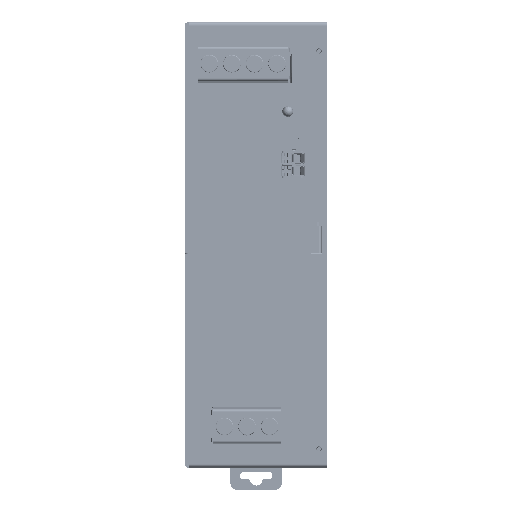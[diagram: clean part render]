
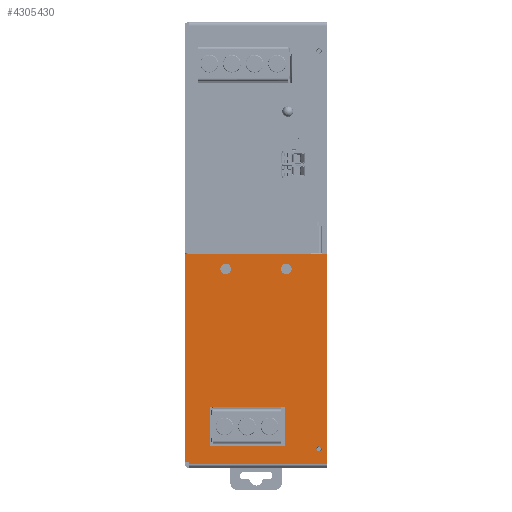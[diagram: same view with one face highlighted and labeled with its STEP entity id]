
A CAD part, left-side view. The second image highlights one B-rep face of the part: STEP entity #4305430.
In plain terms, the highlighted planar face has unit normal (-1, 0, 0).
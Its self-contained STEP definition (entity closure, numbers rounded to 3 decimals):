
#4303350=CARTESIAN_POINT('',(-27.647,70.486,
-48.9));
#4303360=VERTEX_POINT('',#4303350);
#4303390=CARTESIAN_POINT('',(-27.647,31.686,
-48.9));
#4303400=DIRECTION('',(0.,1.,0.));
#4303410=VECTOR('',#4303400,1.);
#4303420=LINE('',#4303390,#4303410);
#4303430=CARTESIAN_POINT('',(-27.647,31.686,
-48.9));
#4303440=VERTEX_POINT('',#4303430);
#4303450=EDGE_CURVE('',#4303440,#4303360,#4303420,.T.);
#4303760=CARTESIAN_POINT('',(-27.647,70.486,
-48.4));
#4303770=VERTEX_POINT('',#4303760);
#4303800=CARTESIAN_POINT('',(-27.647,70.486,
-48.9));
#4303810=DIRECTION('',(0.,0.,1.));
#4303820=VECTOR('',#4303810,1.);
#4303830=LINE('',#4303800,#4303820);
#4303840=EDGE_CURVE('',#4303360,#4303770,#4303830,.T.);
#4304100=CARTESIAN_POINT('',(-27.647,71.186,
-48.4));
#4304110=VERTEX_POINT('',#4304100);
#4304140=CARTESIAN_POINT('',(-27.647,70.486,
-48.4));
#4304150=DIRECTION('',(0.,1.,0.));
#4304160=VECTOR('',#4304150,1.);
#4304170=LINE('',#4304140,#4304160);
#4304180=EDGE_CURVE('',#4303770,#4304110,#4304170,.T.);
#4304230=CARTESIAN_POINT('',(-27.647,39.986,
86.979));
#4304240=DIRECTION('',(-1.,0.,0.));
#4304250=DIRECTION('',(0.,0.,1.));
#4304260=AXIS2_PLACEMENT_3D('',#4304230,#4304240,#4304250);
#4304270=PLANE('',#4304260);
#4304280=CARTESIAN_POINT('',(-27.647,43.646,
-32.148));
#4304290=DIRECTION('',(0.,0.,-1.));
#4304300=VECTOR('',#4304290,1.);
#4304310=LINE('',#4304280,#4304300);
#4304320=CARTESIAN_POINT('',(-27.647,43.646,
-32.748));
#4304330=VERTEX_POINT('',#4304320);
#4304340=CARTESIAN_POINT('',(-27.647,43.646,
-43.85));
#4304350=VERTEX_POINT('',#4304340);
#4304360=EDGE_CURVE('',#4304330,#4304350,#4304310,.T.);
#4304370=ORIENTED_EDGE('',*,*,#4304360,.T.);
#4304380=CARTESIAN_POINT('',(-27.647,64.671,
-32.748));
#4304390=DIRECTION('',(0.,-1.,0.));
#4304400=VECTOR('',#4304390,1.);
#4304410=LINE('',#4304380,#4304400);
#4304420=CARTESIAN_POINT('',(-27.647,64.696,
-32.748));
#4304430=VERTEX_POINT('',#4304420);
#4304440=EDGE_CURVE('',#4304430,#4304330,#4304410,.T.);
#4304450=ORIENTED_EDGE('',*,*,#4304440,.T.);
#4304460=CARTESIAN_POINT('',(-27.647,64.696,
-42.45));
#4304470=DIRECTION('',(0.,0.,1.));
#4304480=VECTOR('',#4304470,1.);
#4304490=LINE('',#4304460,#4304480);
#4304500=CARTESIAN_POINT('',(-27.647,64.696,
-43.85));
#4304510=VERTEX_POINT('',#4304500);
#4304520=EDGE_CURVE('',#4304510,#4304430,#4304490,.T.);
#4304530=ORIENTED_EDGE('',*,*,#4304520,.T.);
#4304540=CARTESIAN_POINT('',(-27.647,64.671,
-43.85));
#4304550=DIRECTION('',(0.,-1.,0.));
#4304560=VECTOR('',#4304550,1.);
#4304570=LINE('',#4304540,#4304560);
#4304580=EDGE_CURVE('',#4304510,#4304350,#4304570,.T.);
#4304590=ORIENTED_EDGE('',*,*,#4304580,.F.);
#4304600=EDGE_LOOP('',(#4304590,#4304530,#4304450,#4304370));
#4304610=FACE_BOUND('',#4304600,.T.);
#4304620=CARTESIAN_POINT('',(-27.647,43.186,
5.949));
#4304630=DIRECTION('',(1.,0.,0.));
#4304640=DIRECTION('',(0.,0.,-1.));
#4304650=AXIS2_PLACEMENT_3D('',#4304620,#4304630,#4304640);
#4304660=CIRCLE('',#4304650,1.5);
#4304670=CARTESIAN_POINT('',(-27.647,43.186,
4.449));
#4304680=VERTEX_POINT('',#4304670);
#4304690=CARTESIAN_POINT('',(-27.647,43.186,
7.449));
#4304700=VERTEX_POINT('',#4304690);
#4304710=EDGE_CURVE('',#4304680,#4304700,#4304660,.T.);
#4304720=ORIENTED_EDGE('',*,*,#4304710,.T.);
#4304730=EDGE_CURVE('',#4304700,#4304680,#4304660,.T.);
#4304740=ORIENTED_EDGE('',*,*,#4304730,.T.);
#4304750=EDGE_LOOP('',(#4304740,#4304720));
#4304760=FACE_BOUND('',#4304750,.T.);
#4304770=CARTESIAN_POINT('',(-27.647,60.186,
5.949));
#4304780=DIRECTION('',(1.,0.,0.));
#4304790=DIRECTION('',(0.,0.,1.));
#4304800=AXIS2_PLACEMENT_3D('',#4304770,#4304780,#4304790);
#4304810=CIRCLE('',#4304800,1.5);
#4304820=CARTESIAN_POINT('',(-27.647,60.186,
7.449));
#4304830=VERTEX_POINT('',#4304820);
#4304840=CARTESIAN_POINT('',(-27.647,60.186,
4.449));
#4304850=VERTEX_POINT('',#4304840);
#4304860=EDGE_CURVE('',#4304830,#4304850,#4304810,.T.);
#4304870=ORIENTED_EDGE('',*,*,#4304860,.T.);
#4304880=EDGE_CURVE('',#4304850,#4304830,#4304810,.T.);
#4304890=ORIENTED_EDGE('',*,*,#4304880,.T.);
#4304900=EDGE_LOOP('',(#4304890,#4304870));
#4304910=FACE_BOUND('',#4304900,.T.);
#4304920=CARTESIAN_POINT('',(-27.647,33.986,
-44.574));
#4304930=DIRECTION('',(1.,0.,0.));
#4304940=DIRECTION('',(0.,-1.,0.));
#4304950=AXIS2_PLACEMENT_3D('',#4304920,#4304930,#4304940);
#4304960=CIRCLE('',#4304950,0.763);
#4304970=CARTESIAN_POINT('',(-27.647,33.223,
-44.574));
#4304980=VERTEX_POINT('',#4304970);
#4304990=CARTESIAN_POINT('',(-27.647,34.749,
-44.574));
#4305000=VERTEX_POINT('',#4304990);
#4305010=EDGE_CURVE('',#4304980,#4305000,#4304960,.T.);
#4305020=ORIENTED_EDGE('',*,*,#4305010,.T.);
#4305030=EDGE_CURVE('',#4305000,#4304980,#4304960,.T.);
#4305040=ORIENTED_EDGE('',*,*,#4305030,.T.);
#4305050=EDGE_LOOP('',(#4305040,#4305020));
#4305060=FACE_BOUND('',#4305050,.T.);
#4305070=CARTESIAN_POINT('',(-27.647,31.686,
9.6));
#4305080=DIRECTION('',(0.,0.,-1.));
#4305090=VECTOR('',#4305080,1.);
#4305100=LINE('',#4305070,#4305090);
#4305110=CARTESIAN_POINT('',(-27.647,31.686,
10.249));
#4305120=VERTEX_POINT('',#4305110);
#4305130=EDGE_CURVE('',#4305120,#4303440,#4305100,.T.);
#4305140=ORIENTED_EDGE('',*,*,#4305130,.F.);
#4305150=ORIENTED_EDGE('',*,*,#4303450,.F.);
#4305160=ORIENTED_EDGE('',*,*,#4303840,.F.);
#4305170=ORIENTED_EDGE('',*,*,#4304180,.F.);
#4305180=CARTESIAN_POINT('',(-27.647,71.186,
-47.9));
#4305190=DIRECTION('',(1.,0.,0.));
#4305200=DIRECTION('',(0.,-1.,0.));
#4305210=AXIS2_PLACEMENT_3D('',#4305180,#4305190,#4305200);
#4305220=CIRCLE('',#4305210,0.5);
#4305230=CARTESIAN_POINT('',(-27.647,71.686,
-47.9));
#4305240=VERTEX_POINT('',#4305230);
#4305250=EDGE_CURVE('',#4304110,#4305240,#4305220,.T.);
#4305260=ORIENTED_EDGE('',*,*,#4305250,.F.);
#4305270=CARTESIAN_POINT('',(-27.647,71.686,
-48.4));
#4305280=DIRECTION('',(0.,0.,1.));
#4305290=VECTOR('',#4305280,1.);
#4305300=LINE('',#4305270,#4305290);
#4305310=CARTESIAN_POINT('',(-27.647,71.686,
10.249));
#4305320=VERTEX_POINT('',#4305310);
#4305330=EDGE_CURVE('',#4305240,#4305320,#4305300,.T.);
#4305340=ORIENTED_EDGE('',*,*,#4305330,.F.);
#4305350=CARTESIAN_POINT('',(-27.647,31.686,
10.249));
#4305360=DIRECTION('',(0.,1.,0.));
#4305370=VECTOR('',#4305360,1.);
#4305380=LINE('',#4305350,#4305370);
#4305390=EDGE_CURVE('',#4305120,#4305320,#4305380,.T.);
#4305400=ORIENTED_EDGE('',*,*,#4305390,.T.);
#4305410=EDGE_LOOP('',(#4305400,#4305340,#4305260,#4305170,#4305160,
#4305150,#4305140));
#4305420=FACE_OUTER_BOUND('',#4305410,.T.);
#4305430=ADVANCED_FACE('',(#4304610,#4304760,#4304910,#4305060,#4305420)
,#4304270,.T.);
